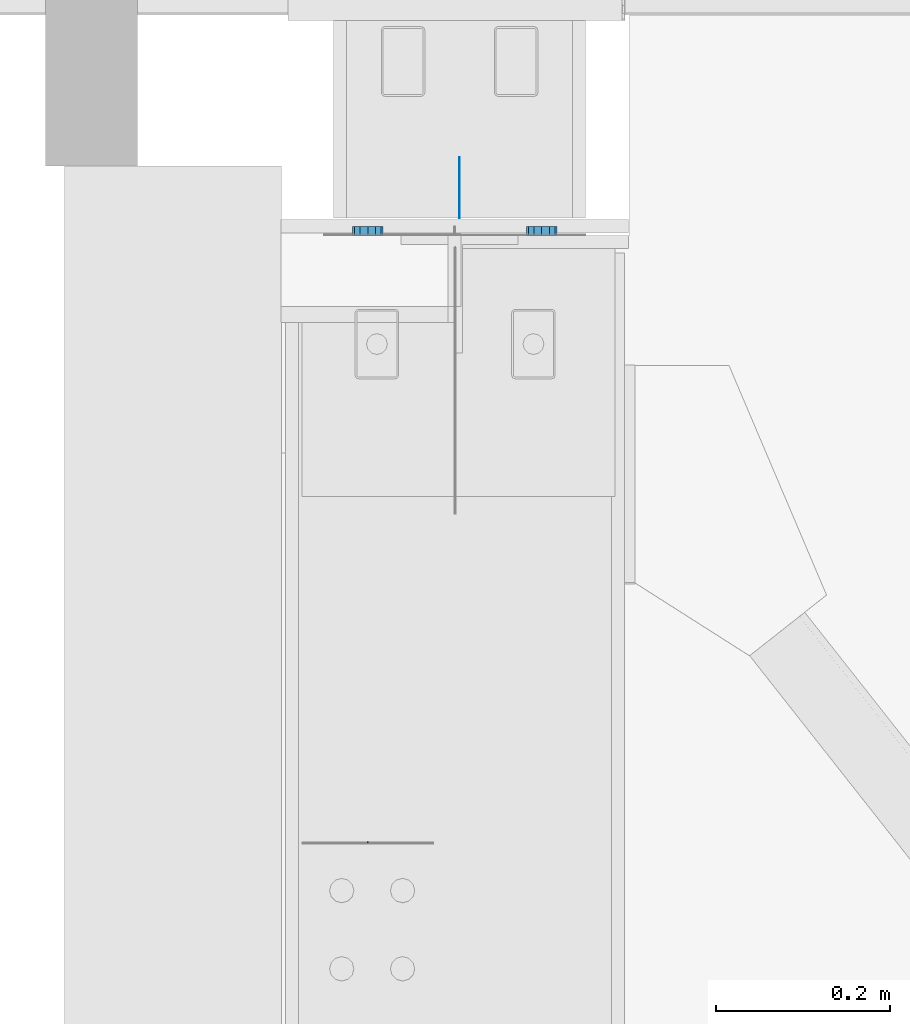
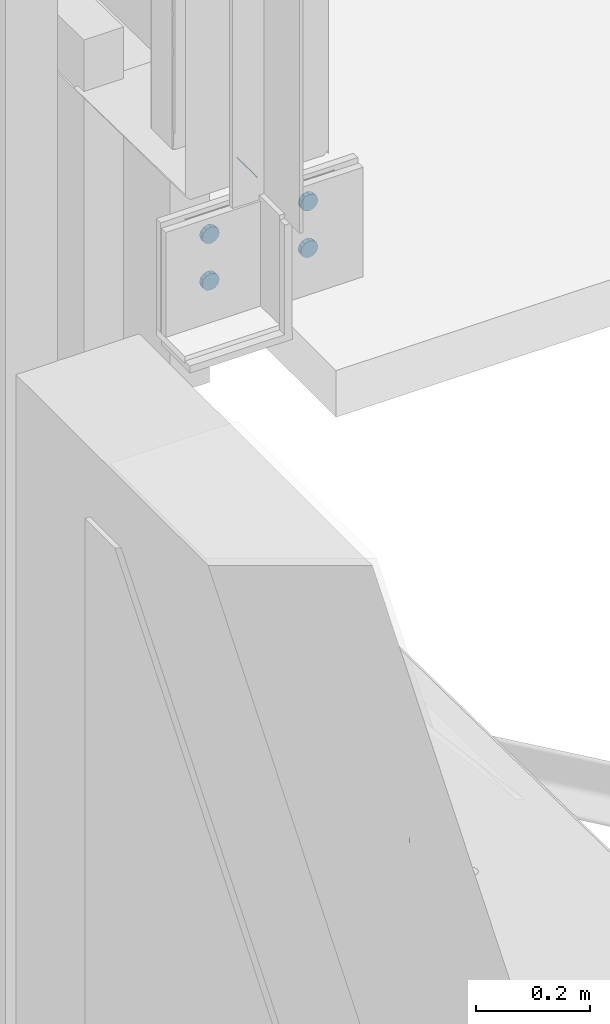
# One storey, part 71 of 186: 7 beams.
"""IFC4X3_ADD2 building model written with IfcOpenShell, lengths in millimetres."""

from ifc_helpers import new_model, si_unit, direction, frame, frame_2d, origin_with_axes, place, context, subcontext, project, spatial, indexed_curve, rectangle, outline, extrude, material, element, save


model = new_model("IFC4X3_ADD2")

# Units and contexts
model_context = context("Model", 3, precision=1e-05, world=origin_with_axes(), true_north=direction((0.0, 1.0)))
body_context = subcontext(model_context, "Body", "Model", "MODEL_VIEW")
ifc_project = project(units=[si_unit("LENGTHUNIT", "METRE", prefix="MILLI"), si_unit("AREAUNIT", "SQUARE_METRE"), si_unit("VOLUMEUNIT", "CUBIC_METRE"), si_unit("PLANEANGLEUNIT", "RADIAN"), si_unit("TIMEUNIT", "SECOND"), si_unit("MASSUNIT", "GRAM")], contexts=[model_context])

# Site, building, storey
site_placement = place(None, origin_with_axes())
site = spatial("IfcSite", under=ifc_project, at=site_placement, Name="Site", CompositionType="ELEMENT")
building_placement = place(site_placement, origin_with_axes())
building = spatial("IfcBuilding", under=site, at=building_placement, Name="IFC Building Story")
storey_placement = place(building_placement, frame((0.0, 0.0, 4370.0), z_axis=(0.0, 0.0, 1.0), x_axis=(1.0, 0.0, 0.0)))
storey = spatial("IfcBuildingStorey", under=building, at=storey_placement, Name="ETAGE 10 (1)", Elevation=4370.0)

# Beams
ifc_material_1 = material(Name="STEEL/Accessory_invisible")
beam_1_placement = place(storey_placement, frame((33301.183164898, -698.044668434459, 3155.852211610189), z_axis=(-1.0, 0.0, 0.0), x_axis=(0.0, 0.01500926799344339, 0.9998873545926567)))
element("IfcBeam", 1, at=beam_1_placement, inside=storey, material=ifc_material_1, Name="ZW1", ObjectType="1*1 12", context=body_context, shape_type="SweptSolid", body=[
    extrude(rectangle(XDim=10.0, YDim=1.00000000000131, at=frame_2d((0.0, 5.95523630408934e-12), x_axis=(1.0, 0.0))), origin_with_axes(), (0.0, 0.0, 1.0), 1.0),
])
beam_2_placement = place(storey_placement, frame((33405.689, 65.00024835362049, 4105.40274340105), z_axis=(1.0, 0.0, 0.0), x_axis=(0.0, 0.0, -1.0)))
element("IfcBeam", 2, at=beam_2_placement, inside=storey, material=ifc_material_1, Name="ZW1", ObjectType="1*1 14", context=body_context, shape_type="SweptSolid", body=[
    extrude(rectangle(XDim=0.9999999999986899, YDim=50.0, at=frame_2d((0.0, 5.95523630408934e-12), x_axis=(1.0, 0.0))), origin_with_axes(), (0.0, 0.0, 1.0), 1.0),
])
ifc_material_2 = material(Name="STEEL/Accessory_invisible 261")
beam_3_placement = place(storey_placement, frame((33405.689, 30.0002483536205, 4105.40274340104), z_axis=(1.0, 0.0, 0.0), x_axis=(0.0, 0.0, -1.0)))
element("IfcBeam", 3, at=beam_3_placement, inside=storey, material=ifc_material_2, Name="PR10", ObjectType="1*1 13", context=body_context, shape_type="SweptSolid", body=[
    extrude(rectangle(XDim=0.9999999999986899, YDim=20.0, at=frame_2d((0.0, 5.95523630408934e-12), x_axis=(1.0, 0.0))), origin_with_axes(), (0.0, 0.0, 1.0), 1.0),
])
ifc_material_3 = material(Name="STEEL/Accessory_Hole_Concrete 8616")
for number, where, z_axis, x_axis, name in (
    (4, (33300.6905081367, 10.0010681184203, 4030.000419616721), (0.0, -1.0, 0.0), (0.2588190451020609, 0.0, -0.9659258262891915), "ZW9"),
    (5, (33500.69050813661, 10.0010681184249, 4030.000419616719), (0.0, -1.0, 0.0), (-0.2588190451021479, 0.0, 0.9659258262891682), "ZW9"),
    (6, (33500.6905081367, 10.0010681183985, 3930.00041961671), (0.0, -1.0, 0.0), (-0.2588190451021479, 0.0, 0.9659258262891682), "ZW9"),
    (7, (33300.6905081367, 10.0010681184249, 3930.000419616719), (0.0, -1.0, 0.0), (-0.2588190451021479, 0.0, 0.9659258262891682), "ZW9"),
):
    element("IfcBeam", number, at=place(storey_placement, frame(where, z_axis=z_axis, x_axis=x_axis)), inside=storey, material=ifc_material_3, Name=name, ObjectType="D35", context=body_context, shape_type="SweptSolid", body=[
        extrude(outline(indexed_curve([(-12.37436867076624, -12.37436867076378), (-16.90370196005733, -4.529333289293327), (-16.90370196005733, 4.529333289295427), (-12.37436867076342, 12.37436867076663), (-4.52933328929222, 16.90370196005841), (4.529333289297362, 16.90370196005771), (12.374368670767, 12.37436867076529), (16.90370196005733, 4.529333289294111), (16.90370196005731, -4.529333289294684), (12.37436867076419, -12.37436867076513), (4.529333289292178, -16.90370196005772), (-4.529333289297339, -16.90370196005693), (-12.37436867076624, -12.37436867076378)])), origin_with_axes(), (0.0, 0.0, 1.0), 10.0),
    ])

save(model, "model.ifc")
